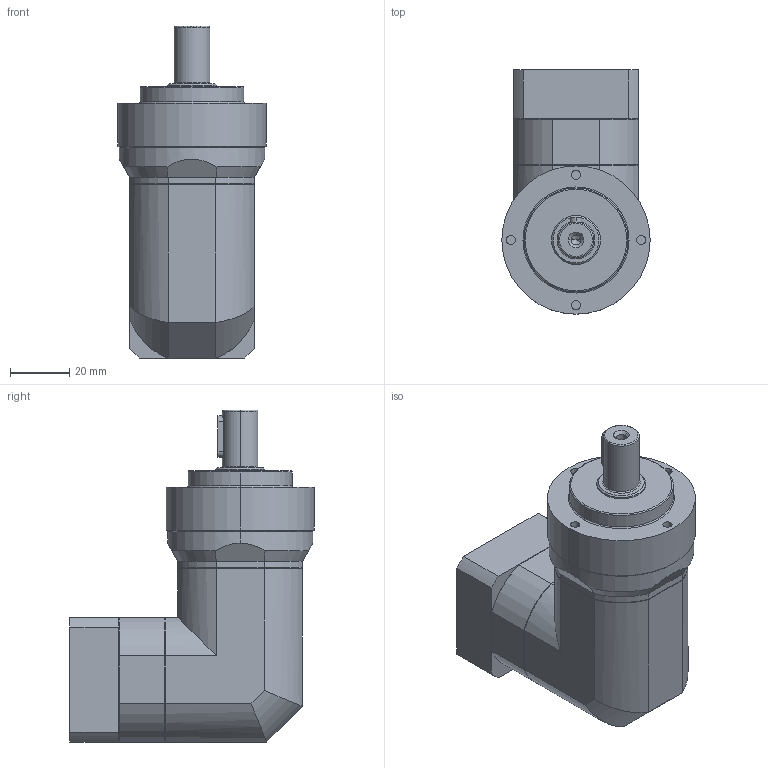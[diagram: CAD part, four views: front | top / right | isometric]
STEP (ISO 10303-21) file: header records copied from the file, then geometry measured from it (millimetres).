
FILE_DESCRIPTION (( 'STEP AP214' ), '1' );
FILE_NAME ('EVL050-L1-S2-P1 8-30-45-M3.STEP', '2023-09-09T01:13:44', ( '微软用户' ), ( '微软中国' ), 'SwSTEP 2.0', 'SolidWorks 2018', '' );
FILE_SCHEMA (( 'AUTOMOTIVE_DESIGN' ));
Length unit declared in the file: millimetre
Products named in the file (1): EVL050-L1-S2-P1 8-30-45-M3
Bounding box: 50 x 82.5 x 112 mm (x, y, z)
Volume: 195549 mm3; surface area: 26707.1 mm2
Topology: 1 solids, 1 shells, 154 faces, 346 edges, 211 vertices
Faces by surface type: cylinder 62, plane 60, cone 24, torus 8
Entity records: 4394 total; most frequent: CARTESIAN_POINT 901, DIRECTION 752, ORIENTED_EDGE 688, EDGE_CURVE 344, AXIS2_PLACEMENT_3D 300, VERTEX_POINT 211, EDGE_LOOP 173, FACE_OUTER_BOUND 154
